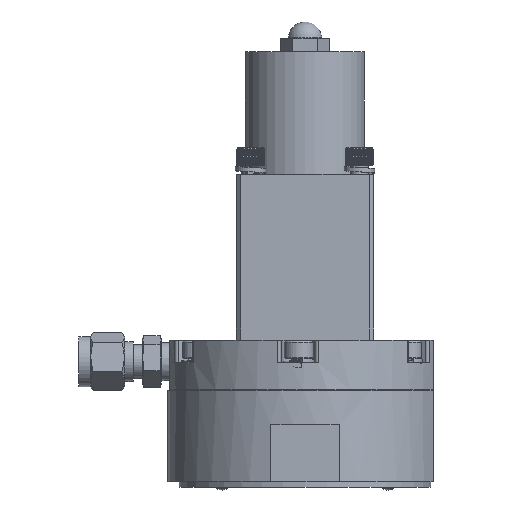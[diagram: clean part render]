
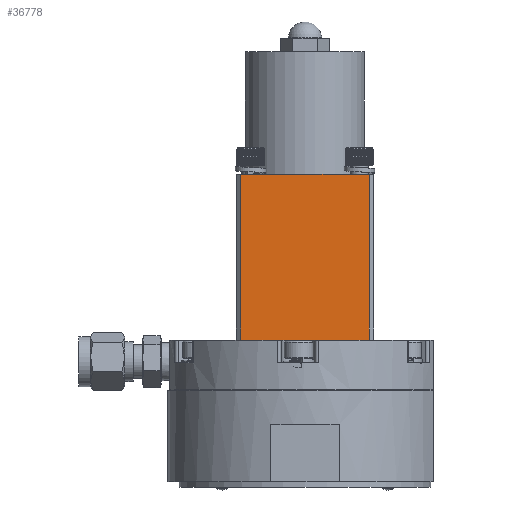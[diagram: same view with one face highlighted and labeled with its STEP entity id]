
A CAD part, left-side view. The second image highlights one B-rep face of the part: STEP entity #36778.
In plain terms, the highlighted planar face has unit normal (-1, 0, 0).
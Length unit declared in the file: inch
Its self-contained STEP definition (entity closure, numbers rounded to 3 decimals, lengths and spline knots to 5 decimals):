
#2541 = VERTEX_POINT ( 'NONE', #55300 ) ;
#2928 = VERTEX_POINT ( 'NONE', #31580 ) ;
#4901 = ORIENTED_EDGE ( 'NONE', *, *, #23414, .T. ) ;
#7604 = CARTESIAN_POINT ( 'NONE',  ( -0.75, 0.7, 3.359 ) ) ;
#8175 = ORIENTED_EDGE ( 'NONE', *, *, #26165, .T. ) ;
#11039 = DIRECTION ( 'NONE',  ( 0., -1., 0. ) ) ;
#12012 = CARTESIAN_POINT ( 'NONE',  ( -0.75, -0.7, 3.359 ) ) ;
#16508 = DIRECTION ( 'NONE',  ( 0., 1., 0. ) ) ;
#16748 = CARTESIAN_POINT ( 'NONE',  ( -0.75, 0.7, 1.549 ) ) ;
#19264 = CARTESIAN_POINT ( 'NONE',  ( -0.75, -0.7, 1.549 ) ) ;
#20568 = DIRECTION ( 'NONE',  ( 0., 0., -1. ) ) ;
#22108 = CARTESIAN_POINT ( 'NONE',  ( -0.75, 0.7, 3.359 ) ) ;
#23414 = EDGE_CURVE ( 'NONE', #40749, #2928, #24151, .T. ) ;
#24151 = LINE ( 'NONE', #19264, #52027 ) ;
#24619 = VECTOR ( 'NONE', #47495, 39.37008 ) ;
#26165 = EDGE_CURVE ( 'NONE', #40032, #40749, #26631, .T. ) ;
#26631 = LINE ( 'NONE', #22108, #24619 ) ;
#26795 = DIRECTION ( 'NONE',  ( 1., 0., 0. ) ) ;
#27138 = FACE_OUTER_BOUND ( 'NONE', #56930, .T. ) ;
#29909 = EDGE_CURVE ( 'NONE', #40032, #2541, #31654, .T. ) ;
#30644 = VECTOR ( 'NONE', #11039, 39.37008 ) ;
#31580 = CARTESIAN_POINT ( 'NONE',  ( -0.75, -0.7, 1.549 ) ) ;
#31654 = LINE ( 'NONE', #55143, #30644 ) ;
#33523 = DIRECTION ( 'NONE',  ( 0., -1., 0. ) ) ;
#35561 = ORIENTED_EDGE ( 'NONE', *, *, #29909, .F. ) ;
#36778 = ADVANCED_FACE ( 'NONE', ( #27138 ), #41262, .F. ) ;
#40032 = VERTEX_POINT ( 'NONE', #7604 ) ;
#40749 = VERTEX_POINT ( 'NONE', #16748 ) ;
#41262 = PLANE ( 'NONE',  #42405 ) ;
#42405 = AXIS2_PLACEMENT_3D ( 'NONE', #12012, #26795, #16508 ) ;
#47495 = DIRECTION ( 'NONE',  ( 0., 0., -1. ) ) ;
#49862 = CARTESIAN_POINT ( 'NONE',  ( -0.75, -0.7, 3.359 ) ) ;
#52027 = VECTOR ( 'NONE', #33523, 39.37008 ) ;
#53766 = LINE ( 'NONE', #49862, #57048 ) ;
#55143 = CARTESIAN_POINT ( 'NONE',  ( -0.75, -0.7, 3.359 ) ) ;
#55300 = CARTESIAN_POINT ( 'NONE',  ( -0.75, -0.7, 3.359 ) ) ;
#56930 = EDGE_LOOP ( 'NONE', ( #4901, #61372, #35561, #8175 ) ) ;
#57048 = VECTOR ( 'NONE', #20568, 39.37008 ) ;
#61372 = ORIENTED_EDGE ( 'NONE', *, *, #62759, .F. ) ;
#62759 = EDGE_CURVE ( 'NONE', #2541, #2928, #53766, .T. ) ;
